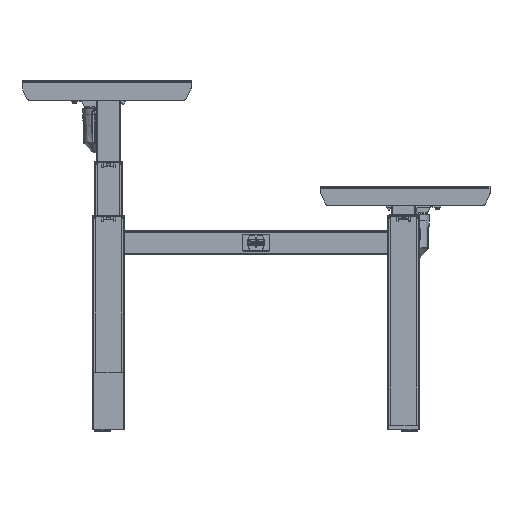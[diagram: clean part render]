
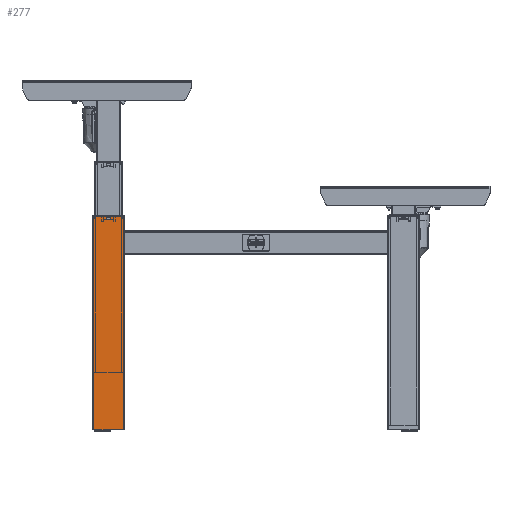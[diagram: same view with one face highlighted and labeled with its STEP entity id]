
A CAD part, left-side view. The second image highlights one B-rep face of the part: STEP entity #277.
In plain terms, the highlighted planar face has unit normal (-1, 0, 0).
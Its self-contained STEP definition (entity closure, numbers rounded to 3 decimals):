
#277 = ADVANCED_FACE ( 'NONE', ( #83251, #56854 ), #75944, .F. ) ;
#378 = VERTEX_POINT ( 'NONE', #93615 ) ;
#778 = VERTEX_POINT ( 'NONE', #70488 ) ;
#1660 = ORIENTED_EDGE ( 'NONE', *, *, #10746, .F. ) ;
#4258 = CARTESIAN_POINT ( 'NONE',  ( -30., 6., 10. ) ) ;
#5615 = CARTESIAN_POINT ( 'NONE',  ( -30., 37., 0. ) ) ;
#8177 = VECTOR ( 'NONE', #60308, 1000. ) ;
#10746 = EDGE_CURVE ( 'NONE', #21683, #86467, #57081, .T. ) ;
#10983 = VECTOR ( 'NONE', #60957, 1000. ) ;
#11628 = VECTOR ( 'NONE', #88568, 1000. ) ;
#14834 = AXIS2_PLACEMENT_3D ( 'NONE', #85862, #69647, #61592 ) ;
#15920 = LINE ( 'NONE', #5615, #85204 ) ;
#18654 = EDGE_CURVE ( 'NONE', #86467, #50486, #69891, .T. ) ;
#18969 = CARTESIAN_POINT ( 'NONE',  ( -30., 37., 545. ) ) ;
#19654 = ORIENTED_EDGE ( 'NONE', *, *, #44013, .T. ) ;
#19743 = LINE ( 'NONE', #103021, #95301 ) ;
#21683 = VERTEX_POINT ( 'NONE', #18969 ) ;
#29374 = VECTOR ( 'NONE', #84866, 1000. ) ;
#29668 = CARTESIAN_POINT ( 'NONE',  ( -30., 37., 545. ) ) ;
#31633 = DIRECTION ( 'NONE',  ( 0., 0., 1. ) ) ;
#41261 = VERTEX_POINT ( 'NONE', #45453 ) ;
#44013 = EDGE_CURVE ( 'NONE', #21683, #41261, #99781, .T. ) ;
#44982 = LINE ( 'NONE', #85877, #75099 ) ;
#45453 = CARTESIAN_POINT ( 'NONE',  ( -30., 37., 0. ) ) ;
#48433 = CARTESIAN_POINT ( 'NONE',  ( -30., 6., 6. ) ) ;
#50486 = VERTEX_POINT ( 'NONE', #52235 ) ;
#52235 = CARTESIAN_POINT ( 'NONE',  ( -30., -37., 0. ) ) ;
#54299 = CARTESIAN_POINT ( 'NONE',  ( -30., 37., 545. ) ) ;
#56698 = ORIENTED_EDGE ( 'NONE', *, *, #75154, .T. ) ;
#56854 = FACE_OUTER_BOUND ( 'NONE', #98886, .T. ) ;
#57081 = LINE ( 'NONE', #29668, #87296 ) ;
#57640 = EDGE_CURVE ( 'NONE', #101825, #63960, #100342, .T. ) ;
#58890 = EDGE_CURVE ( 'NONE', #41261, #50486, #15920, .T. ) ;
#60308 = DIRECTION ( 'NONE',  ( 0., 0., -1. ) ) ;
#60765 = LINE ( 'NONE', #48433, #11628 ) ;
#60957 = DIRECTION ( 'NONE',  ( 0., -1., 0. ) ) ;
#61592 = DIRECTION ( 'NONE',  ( 0., 1., 0. ) ) ;
#63960 = VERTEX_POINT ( 'NONE', #99088 ) ;
#69647 = DIRECTION ( 'NONE',  ( 1., 0., 0. ) ) ;
#69891 = LINE ( 'NONE', #100707, #8177 ) ;
#70488 = CARTESIAN_POINT ( 'NONE',  ( -30., -6., 6. ) ) ;
#71746 = DIRECTION ( 'NONE',  ( 0., -1., 0. ) ) ;
#72714 = EDGE_CURVE ( 'NONE', #778, #378, #60765, .T. ) ;
#73494 = ORIENTED_EDGE ( 'NONE', *, *, #72714, .T. ) ;
#75098 = ORIENTED_EDGE ( 'NONE', *, *, #58890, .T. ) ;
#75099 = VECTOR ( 'NONE', #76640, 1000. ) ;
#75154 = EDGE_CURVE ( 'NONE', #63960, #778, #44982, .T. ) ;
#75944 = PLANE ( 'NONE',  #14834 ) ;
#76170 = ORIENTED_EDGE ( 'NONE', *, *, #18654, .F. ) ;
#76640 = DIRECTION ( 'NONE',  ( 0., 0., -1. ) ) ;
#82907 = EDGE_LOOP ( 'NONE', ( #91887, #98810, #56698, #73494 ) ) ;
#83251 = FACE_BOUND ( 'NONE', #82907, .T. ) ;
#84866 = DIRECTION ( 'NONE',  ( 0., 0., -1. ) ) ;
#85161 = EDGE_CURVE ( 'NONE', #378, #101825, #19743, .T. ) ;
#85204 = VECTOR ( 'NONE', #71746, 1000. ) ;
#85862 = CARTESIAN_POINT ( 'NONE',  ( -30., 37., 545. ) ) ;
#85877 = CARTESIAN_POINT ( 'NONE',  ( -30., -6., 10. ) ) ;
#86467 = VERTEX_POINT ( 'NONE', #102420 ) ;
#87296 = VECTOR ( 'NONE', #103138, 1000. ) ;
#88568 = DIRECTION ( 'NONE',  ( 0., 1., 0. ) ) ;
#90548 = CARTESIAN_POINT ( 'NONE',  ( -30., 6., 10. ) ) ;
#91887 = ORIENTED_EDGE ( 'NONE', *, *, #85161, .T. ) ;
#93615 = CARTESIAN_POINT ( 'NONE',  ( -30., 6., 6. ) ) ;
#95301 = VECTOR ( 'NONE', #31633, 1000. ) ;
#98810 = ORIENTED_EDGE ( 'NONE', *, *, #57640, .T. ) ;
#98886 = EDGE_LOOP ( 'NONE', ( #75098, #76170, #1660, #19654 ) ) ;
#99088 = CARTESIAN_POINT ( 'NONE',  ( -30., -6., 10. ) ) ;
#99781 = LINE ( 'NONE', #54299, #29374 ) ;
#100342 = LINE ( 'NONE', #4258, #10983 ) ;
#100707 = CARTESIAN_POINT ( 'NONE',  ( -30., -37., 545. ) ) ;
#101825 = VERTEX_POINT ( 'NONE', #90548 ) ;
#102420 = CARTESIAN_POINT ( 'NONE',  ( -30., -37., 545. ) ) ;
#103021 = CARTESIAN_POINT ( 'NONE',  ( -30., 6., 10. ) ) ;
#103138 = DIRECTION ( 'NONE',  ( 0., -1., 0. ) ) ;
